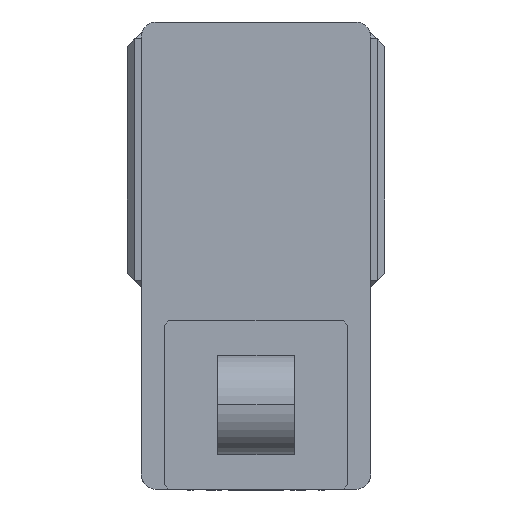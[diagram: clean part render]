
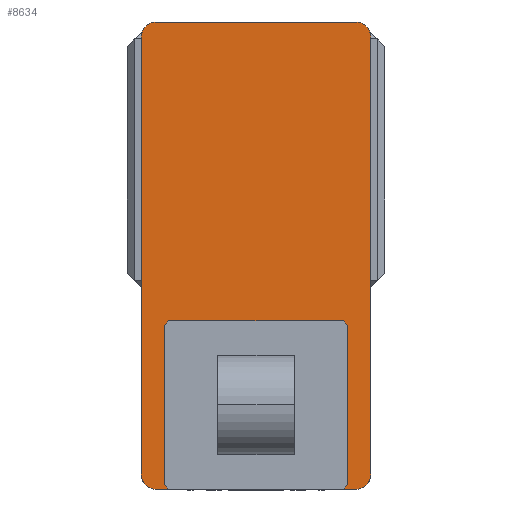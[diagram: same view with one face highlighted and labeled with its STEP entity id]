
A CAD part, left-side view. The second image highlights one B-rep face of the part: STEP entity #8634.
In plain terms, the highlighted planar face has unit normal (-1, 0, 0) as drawn and (0, 0, 1) by its records, which use the part's own axes.
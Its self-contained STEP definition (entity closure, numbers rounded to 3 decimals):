
#65 = CIRCLE ( 'NONE', #2593, 10. ) ;
#529 = DIRECTION ( 'NONE',  ( 1., 0., 0. ) ) ;
#681 = LINE ( 'NONE', #9008, #2851 ) ;
#1000 = CARTESIAN_POINT ( 'NONE',  ( 65., -152.5, 105. ) ) ;
#1933 = VERTEX_POINT ( 'NONE', #9878 ) ;
#2112 = VECTOR ( 'NONE', #6941, 1000. ) ;
#2183 = CARTESIAN_POINT ( 'NONE',  ( 0., 0., 105. ) ) ;
#2235 = CIRCLE ( 'NONE', #4493, 10. ) ;
#2247 = VECTOR ( 'NONE', #5567, 1000. ) ;
#2271 = CARTESIAN_POINT ( 'NONE',  ( -65., -142.5, 105. ) ) ;
#2322 = CARTESIAN_POINT ( 'NONE',  ( -75., 152.5, 105. ) ) ;
#2593 = AXIS2_PLACEMENT_3D ( 'NONE', #4707, #10907, #5611 ) ;
#2851 = VECTOR ( 'NONE', #6330, 1000. ) ;
#3139 = DIRECTION ( 'NONE',  ( 1., 0., 0. ) ) ;
#3174 = VERTEX_POINT ( 'NONE', #4155 ) ;
#3221 = DIRECTION ( 'NONE',  ( 1., 0., 0. ) ) ;
#3672 = VERTEX_POINT ( 'NONE', #8550 ) ;
#3708 = VERTEX_POINT ( 'NONE', #8152 ) ;
#3850 = CARTESIAN_POINT ( 'NONE',  ( -75., 152.5, 105. ) ) ;
#3978 = DIRECTION ( 'NONE',  ( 0., 0., 1. ) ) ;
#4050 = ORIENTED_EDGE ( 'NONE', *, *, #10559, .T. ) ;
#4155 = CARTESIAN_POINT ( 'NONE',  ( 75., 142.5, 105. ) ) ;
#4345 = ORIENTED_EDGE ( 'NONE', *, *, #10230, .T. ) ;
#4493 = AXIS2_PLACEMENT_3D ( 'NONE', #9299, #3978, #10199 ) ;
#4618 = LINE ( 'NONE', #2322, #2112 ) ;
#4707 = CARTESIAN_POINT ( 'NONE',  ( 65., -142.5, 105. ) ) ;
#4933 = CARTESIAN_POINT ( 'NONE',  ( -65., 142.5, 105. ) ) ;
#5452 = LINE ( 'NONE', #11353, #11674 ) ;
#5567 = DIRECTION ( 'NONE',  ( 0., -1., 0. ) ) ;
#5611 = DIRECTION ( 'NONE',  ( 1., 0., 0. ) ) ;
#5687 = AXIS2_PLACEMENT_3D ( 'NONE', #4933, #11131, #5849 ) ;
#5719 = CIRCLE ( 'NONE', #8059, 10. ) ;
#5849 = DIRECTION ( 'NONE',  ( 1., 0., 0. ) ) ;
#5910 = VERTEX_POINT ( 'NONE', #6749 ) ;
#6136 = CARTESIAN_POINT ( 'NONE',  ( -75., 142.5, 105. ) ) ;
#6330 = DIRECTION ( 'NONE',  ( 0., 1., 0. ) ) ;
#6601 = ORIENTED_EDGE ( 'NONE', *, *, #9718, .T. ) ;
#6749 = CARTESIAN_POINT ( 'NONE',  ( -65., -152.5, 105. ) ) ;
#6848 = CARTESIAN_POINT ( 'NONE',  ( -65., 152.5, 105. ) ) ;
#6941 = DIRECTION ( 'NONE',  ( -1., 0., 0. ) ) ;
#7154 = ORIENTED_EDGE ( 'NONE', *, *, #10482, .T. ) ;
#7291 = EDGE_LOOP ( 'NONE', ( #4345, #9600, #7569, #10746, #6601, #7154, #10313, #4050 ) ) ;
#7430 = VERTEX_POINT ( 'NONE', #6848 ) ;
#7569 = ORIENTED_EDGE ( 'NONE', *, *, #9363, .T. ) ;
#7960 = AXIS2_PLACEMENT_3D ( 'NONE', #2183, #8532, #3139 ) ;
#8059 = AXIS2_PLACEMENT_3D ( 'NONE', #2271, #8613, #3221 ) ;
#8152 = CARTESIAN_POINT ( 'NONE',  ( 65., 152.5, 105. ) ) ;
#8491 = PLANE ( 'NONE',  #7960 ) ;
#8532 = DIRECTION ( 'NONE',  ( 0., 0., 1. ) ) ;
#8550 = CARTESIAN_POINT ( 'NONE',  ( -75., -142.5, 105. ) ) ;
#8613 = DIRECTION ( 'NONE',  ( 0., 0., 1. ) ) ;
#8634 = ADVANCED_FACE ( 'NONE', ( #9075 ), #8491, .T. ) ;
#9008 = CARTESIAN_POINT ( 'NONE',  ( 75., 152.5, 105. ) ) ;
#9075 = FACE_OUTER_BOUND ( 'NONE', #7291, .T. ) ;
#9172 = VERTEX_POINT ( 'NONE', #6136 ) ;
#9299 = CARTESIAN_POINT ( 'NONE',  ( 65., 142.5, 105. ) ) ;
#9363 = EDGE_CURVE ( 'NONE', #1933, #3174, #681, .T. ) ;
#9434 = LINE ( 'NONE', #3850, #2247 ) ;
#9600 = ORIENTED_EDGE ( 'NONE', *, *, #10366, .T. ) ;
#9718 = EDGE_CURVE ( 'NONE', #3708, #7430, #4618, .T. ) ;
#9878 = CARTESIAN_POINT ( 'NONE',  ( 75., -142.5, 105. ) ) ;
#10022 = EDGE_CURVE ( 'NONE', #9172, #3672, #9434, .T. ) ;
#10199 = DIRECTION ( 'NONE',  ( 1., 0., 0. ) ) ;
#10230 = EDGE_CURVE ( 'NONE', #5910, #11005, #5452, .T. ) ;
#10313 = ORIENTED_EDGE ( 'NONE', *, *, #10022, .T. ) ;
#10366 = EDGE_CURVE ( 'NONE', #11005, #1933, #65, .T. ) ;
#10445 = EDGE_CURVE ( 'NONE', #3174, #3708, #2235, .T. ) ;
#10482 = EDGE_CURVE ( 'NONE', #7430, #9172, #11246, .T. ) ;
#10559 = EDGE_CURVE ( 'NONE', #3672, #5910, #5719, .T. ) ;
#10746 = ORIENTED_EDGE ( 'NONE', *, *, #10445, .T. ) ;
#10907 = DIRECTION ( 'NONE',  ( 0., 0., 1. ) ) ;
#11005 = VERTEX_POINT ( 'NONE', #1000 ) ;
#11131 = DIRECTION ( 'NONE',  ( 0., 0., 1. ) ) ;
#11246 = CIRCLE ( 'NONE', #5687, 10. ) ;
#11353 = CARTESIAN_POINT ( 'NONE',  ( -75., -152.5, 105. ) ) ;
#11674 = VECTOR ( 'NONE', #529, 1000. ) ;
